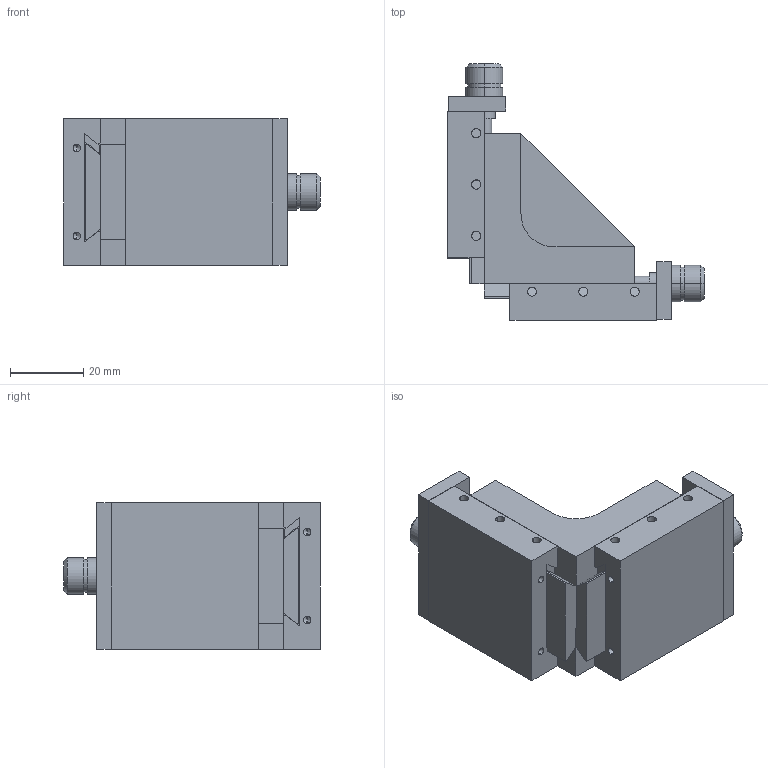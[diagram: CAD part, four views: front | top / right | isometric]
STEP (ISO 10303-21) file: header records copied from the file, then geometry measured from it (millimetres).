
FILE_DESCRIPTION((''),'2;1');
FILE_NAME('D40_ASM','2014-01-12T',('Rudolf Kaufmann'),(''),'PRO/ENGINEER BY PARAMETRIC TECHNOLOGY CORPORATION, 2006420','PRO/ENGINEER BY PARAMETRIC TECHNOLOGY CORPORATION, 2006420','');
FILE_SCHEMA(('CONFIG_CONTROL_DESIGN'));
Length unit declared in the file: millimetre
Products named in the file (10): 402_984_00; ZYL-SCHR_D912_M2-5X8; 402_983_00; 402_982_00; 402_987_00; 403_435_00; FRONTPLATTE3_C40_ASM; WINKEL-D40; FRONTPLATTE31_C40_ASM; D40_ASM
Assembly tree (17 placements, depth 3):
  D40_ASM
    FRONTPLATTE3_C40_ASM
      402_984_00
      ZYL-SCHR_D912_M2-5X8  x2
      402_983_00
      402_982_00
      402_987_00
      403_435_00
    WINKEL-D40
    FRONTPLATTE31_C40_ASM
      402_984_00
      ZYL-SCHR_D912_M2-5X8  x2
      402_983_00
      402_982_00
      402_987_00
      403_435_00
Bounding box: 70 x 70 x 40.03 mm (x, y, z)
Volume: 69777 mm3; surface area: 29714.7 mm2
Topology: 15 solids, 19 shells, 385 faces, 847 edges, 504 vertices
Faces by surface type: plane 179, cylinder 110, cone 72, torus 24
Entity records: 5436 total; most frequent: CARTESIAN_POINT 1082, DIRECTION 941, ORIENTED_EDGE 784, EDGE_CURVE 393, AXIS2_PLACEMENT_3D 350, VERTEX_POINT 247, VECTOR 241, LINE 241
